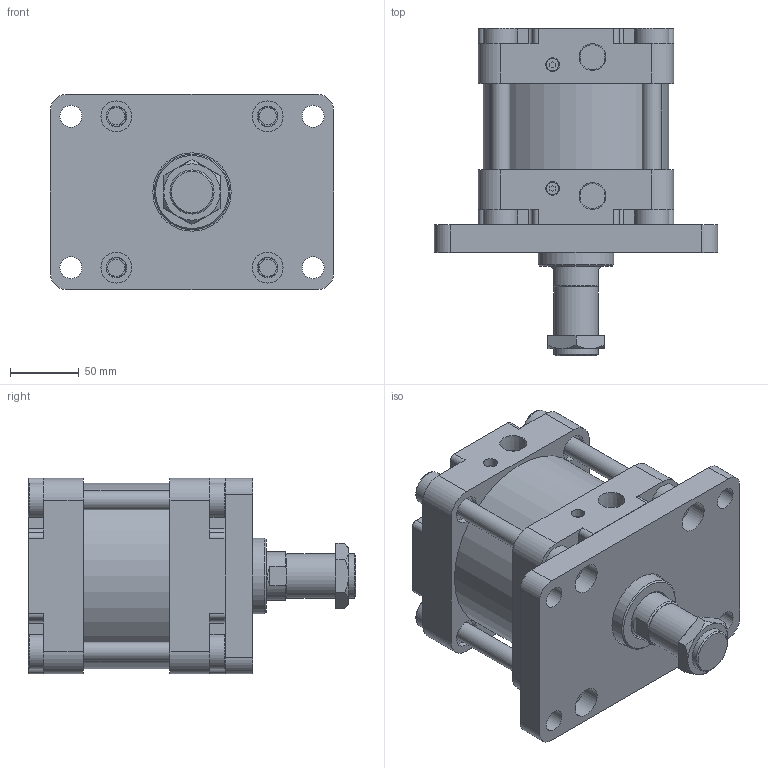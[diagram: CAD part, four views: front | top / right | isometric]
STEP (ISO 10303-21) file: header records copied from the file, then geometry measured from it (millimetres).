
FILE_DESCRIPTION(/* description */ ('Unknown'),/* implementation_level */ '2;1');
FILE_NAME(/* name */ 'WA125-0-FA',/* time_stamp */ '2026-07-17T16:59:07+08:00',/* author */ ('Unknown'),/* organization */ ('Unknown'),/* preprocessor_version */ 'ST-DEVELOPER v16.7',/* originating_system */ 'DEX',/* authorisation */ $);
FILE_SCHEMA (('CONFIG_CONTROL_DESIGN'));
Length unit declared in the file: millimetre
Products named in the file (8): WA125-0-FA; WA125_前1; WA125_岃搵; WA125_ｾT∫ｮ｡; WA125_FA; WA125_､ﾟｶbｬ｡ﾃ_;m^XD}; M32-2.0P-10_螺; WA125_T帽牙
Assembly tree (10 placements, depth 2):
  WA125-0-FA
    WA125_前1
    WA125_岃搵
    WA125_ｾT∫ｮ｡
    WA125_FA
    WA125_､ﾟｶbｬ｡ﾃ_;m^XD}
    M32-2.0P-10_螺
    WA125_T帽牙  x4
Bounding box: 206 x 238 x 142 mm (x, y, z)
Volume: 2846142.2 mm3; surface area: 407550.9 mm2
Topology: 10 solids, 10 shells, 417 faces, 1021 edges, 680 vertices
Faces by surface type: plane 230, cylinder 156, cone 23, torus 8
Full cylindrical faces by diameter (mm): 9 x2, 10 x2, 12.5 x8, 14 x4, 15 x4, 16 x4, 20 x8, 20.5 x8, 22.5 x4, 25 x8, 30 x1, 32 x1, 35 x1, 36 x1, 41 x1, 55 x1, 57 x1, 124.5 x1, 125 x3, 135 x1
Entity records: 11502 total; most frequent: CARTESIAN_POINT 1719, DIRECTION 1666, ORIENTED_EDGE 1472, EDGE_CURVE 736, AXIS2_PLACEMENT_3D 629, VERTEX_POINT 518, EDGE_LOOP 444, FACE_BOUND 444
